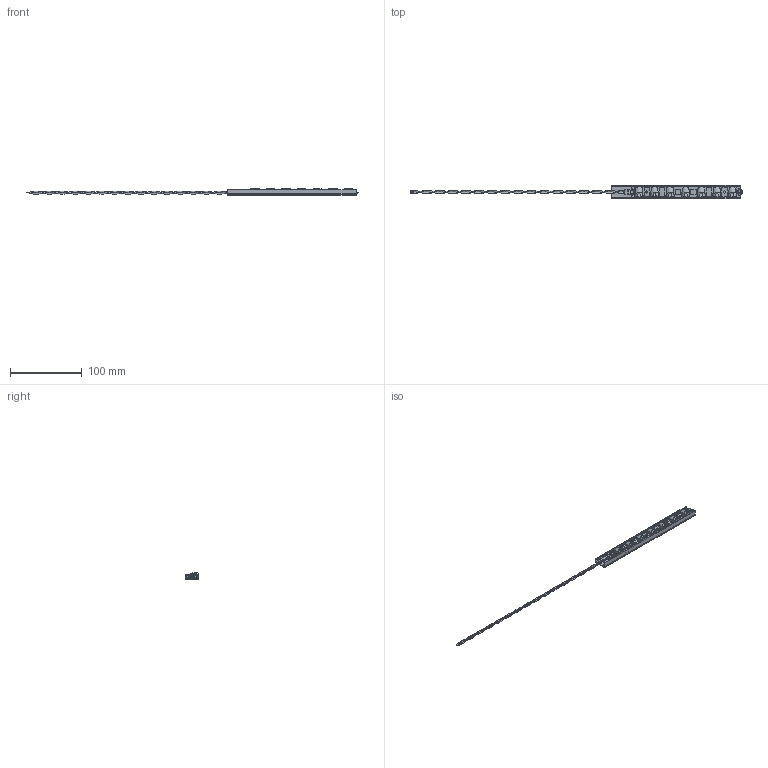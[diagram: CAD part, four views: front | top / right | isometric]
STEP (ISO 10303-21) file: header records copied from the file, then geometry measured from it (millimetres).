
FILE_DESCRIPTION (( 'STEP AP203' ), '1' );
FILE_NAME ('L09_ 6 in_ASYM.STEP', '2020-05-15T18:05:01', ( '' ), ( '' ), 'SwSTEP 2.0', 'SolidWorks 2017', '' );
FILE_SCHEMA (( 'CONFIG_CONTROL_DESIGN' ));
Length unit declared in the file: millimetre
Products named in the file (12): PCB-000101_102-00_PCB-000102-00; HSG-000251-00_6 IN Fixture; CON-000199-00; AVX-11-9159-002-101-916_11-9159-002-101-X16_With wires; REF-000074-02; AVX-60-9159-3402-0X-000_60-9159-3402-0X-000; L09_ 6 in_ASYM; AVX-60-9159-3302-0X-000_60-9159-3302-0X-000; ACB-000214-00; CON-000198-00; ASY-006401-02; OPC-000139-00
Assembly tree (17 placements, depth 3):
  L09_ 6 in_ASYM
    PCB-000101_102-00_PCB-000102-00
    CON-000199-00
    CON-000198-00
    HSG-000251-00_6 IN Fixture
    ASY-006401-02
      REF-000074-02
      OPC-000139-00  x7
    ACB-000214-00
      AVX-11-9159-002-101-916_11-9159-002-101-X16_With wires
      AVX-60-9159-3302-0X-000_60-9159-3302-0X-000
      AVX-60-9159-3402-0X-000_60-9159-3402-0X-000
Bounding box: 464.1 x 18.5 x 9.07 mm (x, y, z)
Volume: 15647.5 mm3; surface area: 29498.1 mm2
Topology: 15 solids, 17 shells, 1516 faces, 3984 edges, 2511 vertices
Faces by surface type: plane 652, bspline 628, cylinder 223, cone 12, torus 1
Entity records: 116826 total; most frequent: CARTESIAN_POINT 88438, ORIENTED_EDGE 6420, DIRECTION 4238, EDGE_CURVE 3210, VERTEX_POINT 2049, LINE 1798, VECTOR 1798, EDGE_LOOP 1283
